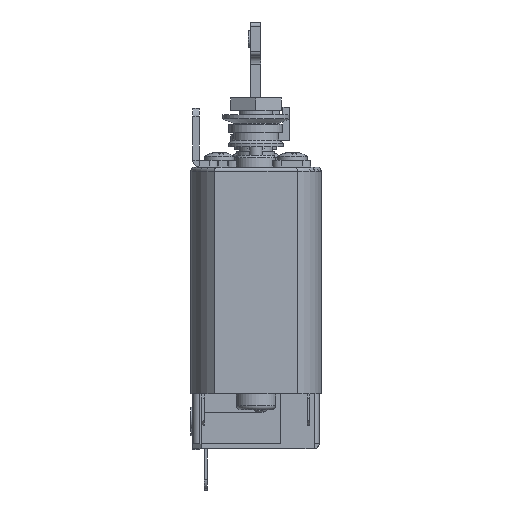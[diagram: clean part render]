
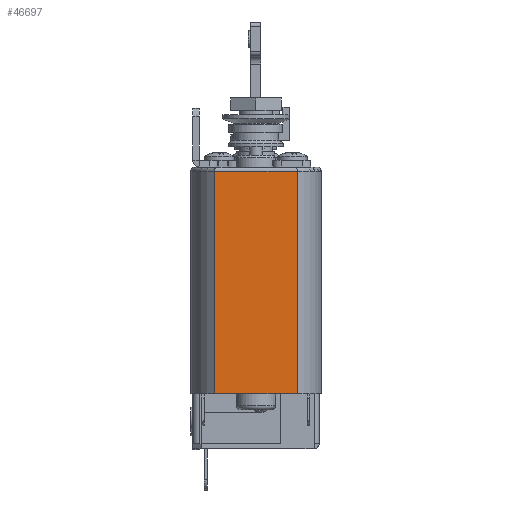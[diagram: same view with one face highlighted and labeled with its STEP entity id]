
A CAD part, left-side view. The second image highlights one B-rep face of the part: STEP entity #46697.
In plain terms, the highlighted planar face has unit normal (-1, 0, 0).
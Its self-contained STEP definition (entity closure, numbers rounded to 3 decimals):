
#34527 = VERTEX_POINT('',#34528);
#34528 = CARTESIAN_POINT('',(-80.5,4.905,-8.7));
#34572 = CYLINDRICAL_SURFACE('',#34573,0.5);
#34573 = AXIS2_PLACEMENT_3D('',#34574,#34575,#34576);
#34574 = CARTESIAN_POINT('',(-80.,-4.905,-8.7));
#34575 = DIRECTION('',(0.,1.,0.));
#34576 = DIRECTION('',(0.,0.,1.));
#34614 = CYLINDRICAL_SURFACE('',#34615,7.75);
#34615 = AXIS2_PLACEMENT_3D('',#34616,#34617,#34618);
#34616 = CARTESIAN_POINT('',(-74.5,0.,-8.2));
#34617 = DIRECTION('',(0.,0.,1.));
#34618 = DIRECTION('',(0.,-1.,0.));
#41966 = VERTEX_POINT('',#41967);
#41967 = CARTESIAN_POINT('',(-80.5,-4.905,-8.7));
#42033 = EDGE_CURVE('',#41966,#34527,#42034,.T.);
#42034 = SURFACE_CURVE('',#42035,(#42039,#42046),.PCURVE_S1.);
#42035 = LINE('',#42036,#42037);
#42036 = CARTESIAN_POINT('',(-80.5,-4.905,-8.7));
#42037 = VECTOR('',#42038,1.);
#42038 = DIRECTION('',(0.,1.,0.));
#42039 = PCURVE('',#34572,#42040);
#42040 = DEFINITIONAL_REPRESENTATION('',(#42041),#42045);
#42041 = LINE('',#42042,#42043);
#42042 = CARTESIAN_POINT('',(-1.571,0.));
#42043 = VECTOR('',#42044,1.);
#42044 = DIRECTION('',(-0.,1.));
#42045 = ( GEOMETRIC_REPRESENTATION_CONTEXT(2) 
PARAMETRIC_REPRESENTATION_CONTEXT() REPRESENTATION_CONTEXT('2D SPACE',''
  ) );
#42046 = PCURVE('',#42047,#42052);
#42047 = PLANE('',#42048);
#42048 = AXIS2_PLACEMENT_3D('',#42049,#42050,#42051);
#42049 = CARTESIAN_POINT('',(-80.5,12.,-41.2));
#42050 = DIRECTION('',(1.,0.,0.));
#42051 = DIRECTION('',(0.,0.,1.));
#42052 = DEFINITIONAL_REPRESENTATION('',(#42053),#42057);
#42053 = LINE('',#42054,#42055);
#42054 = CARTESIAN_POINT('',(32.5,16.905));
#42055 = VECTOR('',#42056,1.);
#42056 = DIRECTION('',(0.,-1.));
#42057 = ( GEOMETRIC_REPRESENTATION_CONTEXT(2) 
PARAMETRIC_REPRESENTATION_CONTEXT() REPRESENTATION_CONTEXT('2D SPACE',''
  ) );
#42091 = EDGE_CURVE('',#42092,#34527,#42094,.T.);
#42092 = VERTEX_POINT('',#42093);
#42093 = CARTESIAN_POINT('',(-80.5,4.905,-35.1));
#42094 = SURFACE_CURVE('',#42095,(#42099,#42105),.PCURVE_S1.);
#42095 = LINE('',#42096,#42097);
#42096 = CARTESIAN_POINT('',(-80.5,4.905,-8.2));
#42097 = VECTOR('',#42098,1.);
#42098 = DIRECTION('',(0.,0.,1.));
#42099 = PCURVE('',#34614,#42100);
#42100 = DEFINITIONAL_REPRESENTATION('',(#42101),#42104);
#42101 = B_SPLINE_CURVE_WITH_KNOTS('',1,(#42102,#42103),.UNSPECIFIED.,
  .F.,.F.,(2,2),(-26.9,0.),.PIECEWISE_BEZIER_KNOTS.);
#42102 = CARTESIAN_POINT('',(4.027,-26.9));
#42103 = CARTESIAN_POINT('',(4.027,0.));
#42104 = ( GEOMETRIC_REPRESENTATION_CONTEXT(2) 
PARAMETRIC_REPRESENTATION_CONTEXT() REPRESENTATION_CONTEXT('2D SPACE',''
  ) );
#42105 = PCURVE('',#42047,#42106);
#42106 = DEFINITIONAL_REPRESENTATION('',(#42107),#42110);
#42107 = B_SPLINE_CURVE_WITH_KNOTS('',1,(#42108,#42109),.UNSPECIFIED.,
  .F.,.F.,(2,2),(-26.9,0.),.PIECEWISE_BEZIER_KNOTS.);
#42108 = CARTESIAN_POINT('',(6.1,7.095));
#42109 = CARTESIAN_POINT('',(33.,7.095));
#42110 = ( GEOMETRIC_REPRESENTATION_CONTEXT(2) 
PARAMETRIC_REPRESENTATION_CONTEXT() REPRESENTATION_CONTEXT('2D SPACE',''
  ) );
#42149 = PLANE('',#42150);
#42150 = AXIS2_PLACEMENT_3D('',#42151,#42152,#42153);
#42151 = CARTESIAN_POINT('',(-74.5,0.,-35.1));
#42152 = DIRECTION('',(0.,0.,1.));
#42153 = DIRECTION('',(0.,-1.,0.));
#42225 = CYLINDRICAL_SURFACE('',#42226,7.75);
#42226 = AXIS2_PLACEMENT_3D('',#42227,#42228,#42229);
#42227 = CARTESIAN_POINT('',(-74.5,0.,-8.2));
#42228 = DIRECTION('',(0.,0.,1.));
#42229 = DIRECTION('',(0.,-1.,0.));
#46697 = ADVANCED_FACE('',(#46698),#42047,.F.);
#46698 = FACE_BOUND('',#46699,.F.);
#46699 = EDGE_LOOP('',(#46700,#46701,#46702,#46723));
#46700 = ORIENTED_EDGE('',*,*,#42091,.T.);
#46701 = ORIENTED_EDGE('',*,*,#42033,.F.);
#46702 = ORIENTED_EDGE('',*,*,#46703,.F.);
#46703 = EDGE_CURVE('',#46704,#41966,#46706,.T.);
#46704 = VERTEX_POINT('',#46705);
#46705 = CARTESIAN_POINT('',(-80.5,-4.905,-35.1));
#46706 = SURFACE_CURVE('',#46707,(#46711,#46717),.PCURVE_S1.);
#46707 = LINE('',#46708,#46709);
#46708 = CARTESIAN_POINT('',(-80.5,-4.905,-8.2));
#46709 = VECTOR('',#46710,1.);
#46710 = DIRECTION('',(0.,0.,1.));
#46711 = PCURVE('',#42047,#46712);
#46712 = DEFINITIONAL_REPRESENTATION('',(#46713),#46716);
#46713 = B_SPLINE_CURVE_WITH_KNOTS('',1,(#46714,#46715),.UNSPECIFIED.,
  .F.,.F.,(2,2),(-26.9,0.),.PIECEWISE_BEZIER_KNOTS.);
#46714 = CARTESIAN_POINT('',(6.1,16.905));
#46715 = CARTESIAN_POINT('',(33.,16.905));
#46716 = ( GEOMETRIC_REPRESENTATION_CONTEXT(2) 
PARAMETRIC_REPRESENTATION_CONTEXT() REPRESENTATION_CONTEXT('2D SPACE',''
  ) );
#46717 = PCURVE('',#42225,#46718);
#46718 = DEFINITIONAL_REPRESENTATION('',(#46719),#46722);
#46719 = B_SPLINE_CURVE_WITH_KNOTS('',1,(#46720,#46721),.UNSPECIFIED.,
  .F.,.F.,(2,2),(-26.9,0.),.PIECEWISE_BEZIER_KNOTS.);
#46720 = CARTESIAN_POINT('',(5.398,-26.9));
#46721 = CARTESIAN_POINT('',(5.398,0.));
#46722 = ( GEOMETRIC_REPRESENTATION_CONTEXT(2) 
PARAMETRIC_REPRESENTATION_CONTEXT() REPRESENTATION_CONTEXT('2D SPACE',''
  ) );
#46723 = ORIENTED_EDGE('',*,*,#46724,.T.);
#46724 = EDGE_CURVE('',#46704,#42092,#46725,.T.);
#46725 = SURFACE_CURVE('',#46726,(#46730,#46736),.PCURVE_S1.);
#46726 = LINE('',#46727,#46728);
#46727 = CARTESIAN_POINT('',(-80.5,6.,-35.1));
#46728 = VECTOR('',#46729,1.);
#46729 = DIRECTION('',(0.,1.,0.));
#46730 = PCURVE('',#42047,#46731);
#46731 = DEFINITIONAL_REPRESENTATION('',(#46732),#46735);
#46732 = B_SPLINE_CURVE_WITH_KNOTS('',1,(#46733,#46734),.UNSPECIFIED.,
  .F.,.F.,(2,2),(-13.75,1.75),.PIECEWISE_BEZIER_KNOTS.);
#46733 = CARTESIAN_POINT('',(6.1,19.75));
#46734 = CARTESIAN_POINT('',(6.1,4.25));
#46735 = ( GEOMETRIC_REPRESENTATION_CONTEXT(2) 
PARAMETRIC_REPRESENTATION_CONTEXT() REPRESENTATION_CONTEXT('2D SPACE',''
  ) );
#46736 = PCURVE('',#42149,#46737);
#46737 = DEFINITIONAL_REPRESENTATION('',(#46738),#46741);
#46738 = B_SPLINE_CURVE_WITH_KNOTS('',1,(#46739,#46740),.UNSPECIFIED.,
  .F.,.F.,(2,2),(-13.75,1.75),.PIECEWISE_BEZIER_KNOTS.);
#46739 = CARTESIAN_POINT('',(7.75,-6.));
#46740 = CARTESIAN_POINT('',(-7.75,-6.));
#46741 = ( GEOMETRIC_REPRESENTATION_CONTEXT(2) 
PARAMETRIC_REPRESENTATION_CONTEXT() REPRESENTATION_CONTEXT('2D SPACE',''
  ) );
